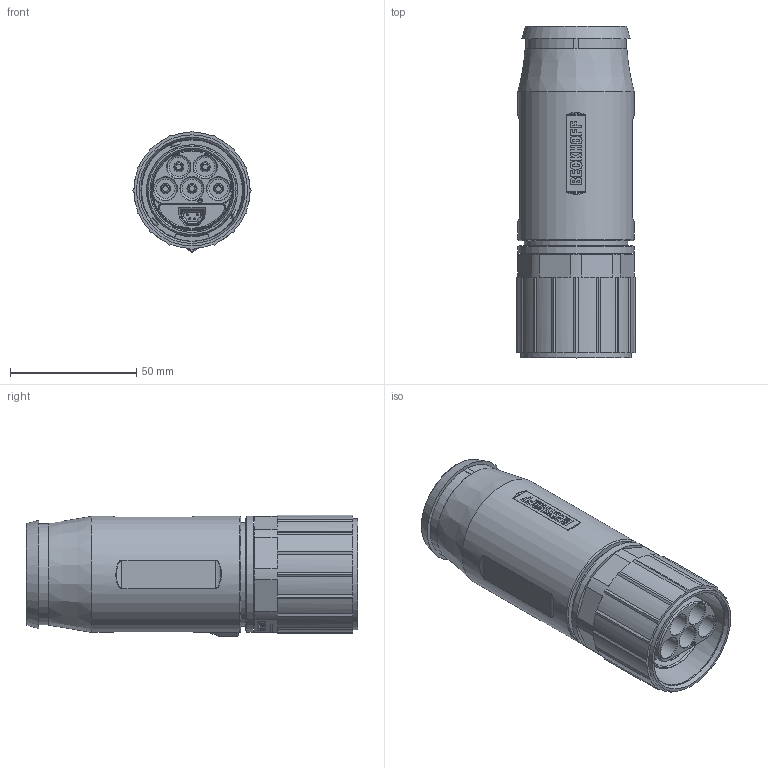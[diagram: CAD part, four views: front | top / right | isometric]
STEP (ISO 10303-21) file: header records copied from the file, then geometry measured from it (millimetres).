
FILE_DESCRIPTION(/* description */ (''),/* implementation_level */ '2;1');
FILE_NAME(/* name */ 'X:\0-inventor\0-3d-Teile\PC-Compo\solids\EtherCAT-P_Stecker_Buchsen\0-Ausgabe\B40 ENP und ECP_T0529\59K1A3024_Step.stp',/* time_stamp */ '2019-06-11T16:30:27+02:00',/* author */ ('ChristianKreuzer'),/* organization */ ('Design-AG'),/* preprocessor_version */ 'ST-DEVELOPER v17.2',/* originating_system */ 'Autodesk Inventor 2019',/* authorisation */ '');
FILE_SCHEMA (('AUTOMOTIVE_DESIGN { 1 0 10303 214 3 1 1 }'));
Length unit declared in the file: millimetre
Products named in the file (1): 59K1A3024_Step
Bounding box: 47 x 131.5 x 48.29 mm (x, y, z)
Volume: 188401.9 mm3; surface area: 46673.4 mm2
Topology: 17 solids, 17 shells, 1028 faces, 2786 edges, 1854 vertices
Faces by surface type: plane 764, bspline 105, cylinder 97, cone 38, torus 19, sphere 5
Full cylindrical faces by diameter (mm): 0.8 x4, 1.5 x1, 1.7 x1, 4 x8, 9.2 x5, 25.6 x1, 32 x1, 32.2 x1, 33 x1, 34.2 x1, 36 x1, 36.1 x2, 40 x1, 40.3 x1, 41 x1, 42.6 x1, 44 x1, 46 x2
Entity records: 36310 total; most frequent: CARTESIAN_POINT 9550, ORIENTED_EDGE 5564, DIRECTION 4847, EDGE_CURVE 2782, LINE 2143, VECTOR 2143, VERTEX_POINT 1854, AXIS2_PLACEMENT_3D 1352
